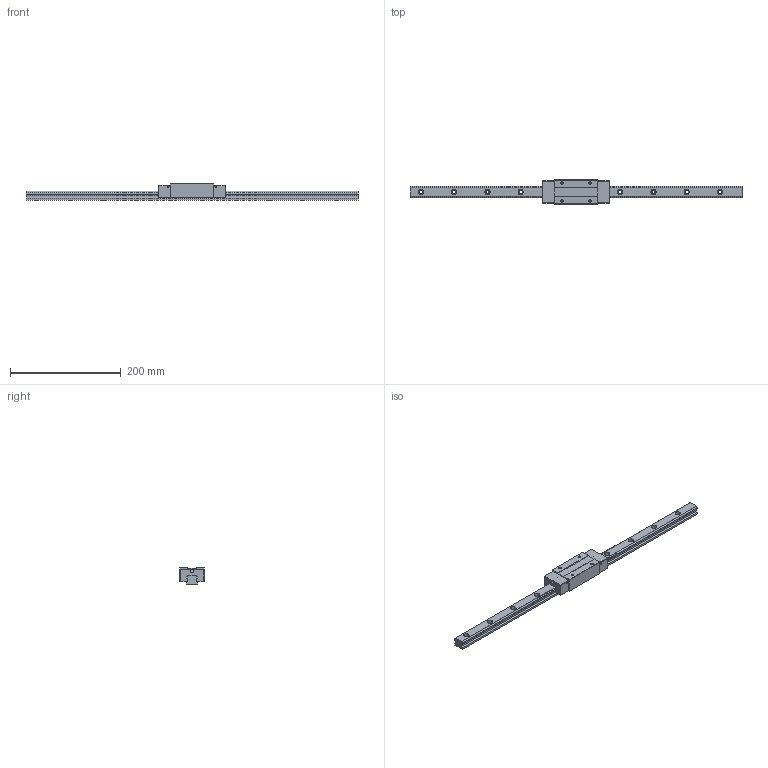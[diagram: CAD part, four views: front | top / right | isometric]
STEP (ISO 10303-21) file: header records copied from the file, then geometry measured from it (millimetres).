
FILE_DESCRIPTION (( 'STEP AP203' ), '1' );
FILE_NAME ('TRH20VE-WZ.STEP', '2024-05-23T03:02:02', ( '' ), ( '' ), 'SwSTEP 2.0', 'SolidWorks 2022', '' );
FILE_SCHEMA (( 'CONFIG_CONTROL_DESIGN' ));
Length unit declared in the file: millimetre
Products named in the file (1): TRH20VE-WZ
Bounding box: 600 x 44 x 30 mm (x, y, z)
Volume: 268172.8 mm3; surface area: 71489.2 mm2
Topology: 2 solids, 2 shells, 196 faces, 512 edges, 332 vertices
Faces by surface type: cylinder 96, plane 84, cone 16
Entity records: 6127 total; most frequent: DIRECTION 1098, CARTESIAN_POINT 1033, ORIENTED_EDGE 1008, EDGE_CURVE 504, AXIS2_PLACEMENT_3D 397, VERTEX_POINT 332, LINE 304, VECTOR 304
